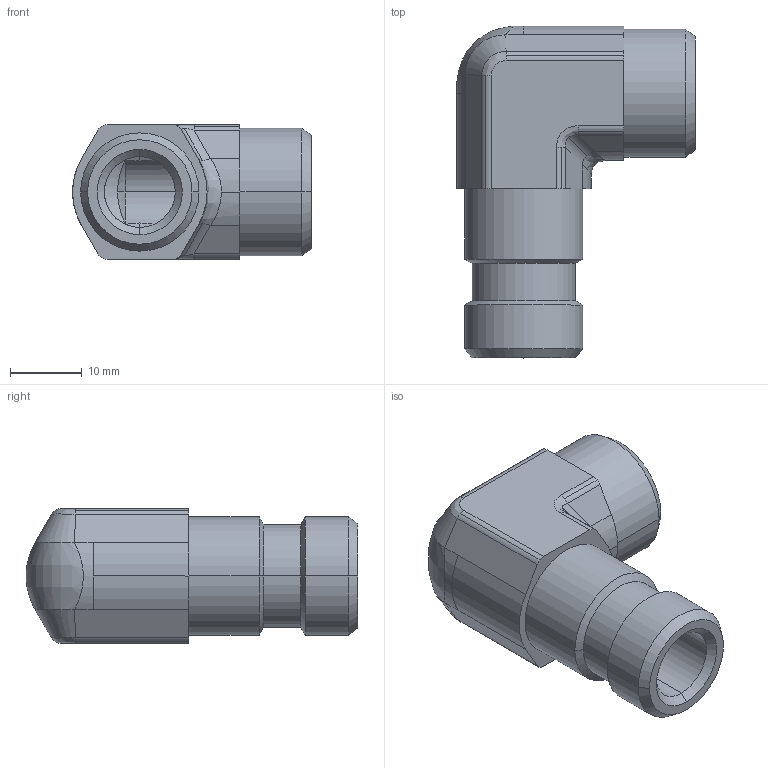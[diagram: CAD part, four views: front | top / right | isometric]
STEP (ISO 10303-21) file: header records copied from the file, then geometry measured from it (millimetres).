
FILE_DESCRIPTION((''),'2;1');
FILE_NAME('106107.stp','2007-10-31T14:51:30',(''),(''),'AutoCAD STEP 2000i','AutoCAD 2000i',', , ');
FILE_SCHEMA(('CONFIG_CONTROL_DESIGN'));
Length unit declared in the file: millimetre
Products named in the file (2): 106107.0; 3090#0
Assembly tree (1 placements, depth 2):
  106107.0
    3090#0
Bounding box: 33.4 x 46.4 x 18.8 mm (x, y, z)
Volume: 10080.3 mm3; surface area: 5709.9 mm2
Topology: 1 solids, 1 shells, 96 faces, 226 edges, 137 vertices
Faces by surface type: cylinder 46, cone 19, plane 19, bspline 12
Entity records: 3646 total; most frequent: CARTESIAN_POINT 1339, DIRECTION 477, ORIENTED_EDGE 452, EDGE_CURVE 226, AXIS2_PLACEMENT_3D 193, VERTEX_POINT 137, EDGE_LOOP 103, CIRCLE 97
